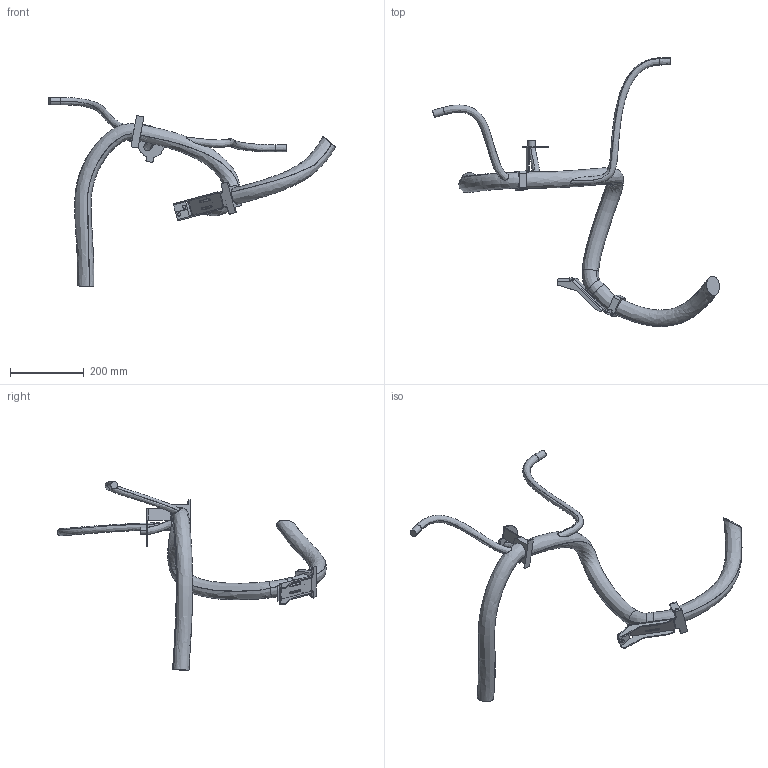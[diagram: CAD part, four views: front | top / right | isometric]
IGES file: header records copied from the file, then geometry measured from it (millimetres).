
Start section: SolidWorks IGES file using analytic representation for surfaces
Global section: file name: C:\Data\SAP_DOC\IRB6740_lightweight\6750S\IRB 6750S ASM\IRB6750S-LID-MH_220kg-360_OC_01_SW_J\IRB6750S-LID-MH_220kg-360_OC_01_IGES_J\IRB6750S-ALL-OC_00_LINK01m_CABLE.igs; native system: SolidWorks 2024; preprocessor: SolidWorks 2024; author: SEJAOLS6; date: 260513.073111; units: millimetre
Bounding box: 781.12 x 732.03 x 514.25 mm (x, y, z)
Surface area: 333324.4 mm2 (no closed solid volume)
Topology: 0 solids, 0 shells, 233 faces, 3438 edges, 3438 vertices
Faces by surface type: bspline 151, revolution 82
